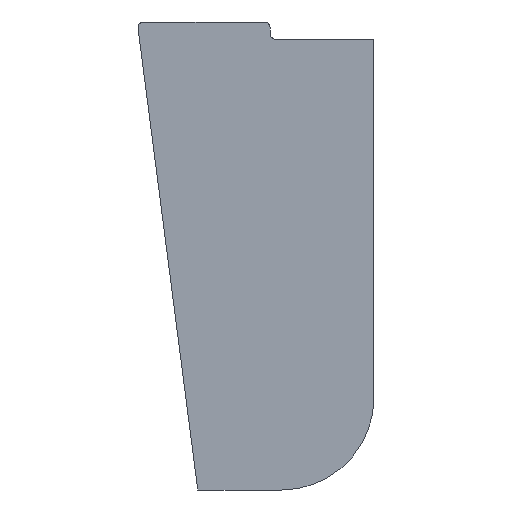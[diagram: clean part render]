
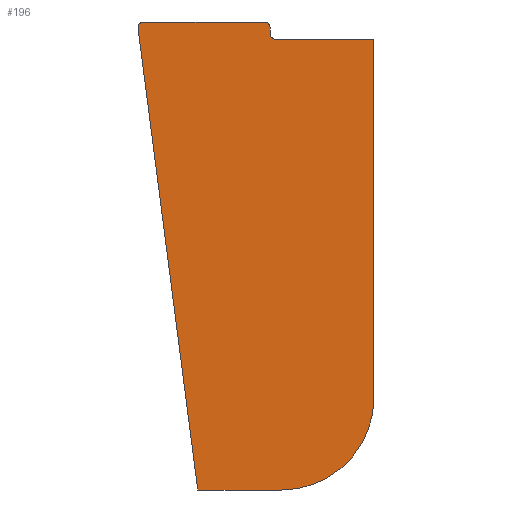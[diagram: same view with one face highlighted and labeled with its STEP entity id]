
A CAD part, left-side view. The second image highlights one B-rep face of the part: STEP entity #196.
In plain terms, the highlighted planar face has unit normal (-1, 0, 0).
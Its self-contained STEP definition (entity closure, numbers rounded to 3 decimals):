
#1=CARTESIAN_POINT('',(0.,206.929,629.699));
#2=DIRECTION('',(-1.,0.,0.));
#3=DIRECTION('',(0.,0.,-1.));
#4=AXIS2_PLACEMENT_3D('',#1,#2,#3);
#6=DIRECTION('',(0.,1.,0.));
#7=VECTOR('',#6,72.675);
#8=CARTESIAN_POINT('',(0.,206.929,549.699));
#9=LINE('',#8,#7);
#10=DIRECTION('',(0.,0.128,0.992));
#11=VECTOR('',#10,402.986);
#12=CARTESIAN_POINT('',(0.,279.604,549.699));
#13=LINE('',#12,#11);
#14=CARTESIAN_POINT('',(0.,326.312,950.));
#15=DIRECTION('',(-1.,0.,0.));
#16=DIRECTION('',(0.,0.,1.));
#17=AXIS2_PLACEMENT_3D('',#14,#15,#16);
#19=DIRECTION('',(0.,-1.,0.));
#20=VECTOR('',#19,104.383);
#21=CARTESIAN_POINT('',(0.,326.312,955.));
#22=LINE('',#21,#20);
#23=CARTESIAN_POINT('',(0.,221.929,950.));
#24=DIRECTION('',(1.,0.,0.));
#25=DIRECTION('',(0.,0.,1.));
#26=AXIS2_PLACEMENT_3D('',#23,#24,#25);
#28=DIRECTION('',(0.,0.,-1.));
#29=VECTOR('',#28,5.);
#30=CARTESIAN_POINT('',(0.,216.929,950.));
#31=LINE('',#30,#29);
#32=CARTESIAN_POINT('',(0.,211.929,945.));
#33=DIRECTION('',(-1.,0.,0.));
#34=DIRECTION('',(0.,1.,0.));
#35=AXIS2_PLACEMENT_3D('',#32,#33,#34);
#37=DIRECTION('',(0.,-1.,0.));
#38=VECTOR('',#37,85.);
#39=CARTESIAN_POINT('',(0.,211.929,940.));
#40=LINE('',#39,#38);
#41=DIRECTION('',(0.,0.,-1.));
#42=VECTOR('',#41,310.301);
#43=CARTESIAN_POINT('',(0.,126.929,940.));
#44=LINE('',#43,#42);
#129=CARTESIAN_POINT('',(0.,221.929,955.));
#130=CARTESIAN_POINT('',(0.,216.929,950.));
#131=VERTEX_POINT('',#129);
#132=VERTEX_POINT('',#130);
#133=CARTESIAN_POINT('',(0.,216.929,945.));
#134=VERTEX_POINT('',#133);
#135=CARTESIAN_POINT('',(0.,211.929,940.));
#136=CARTESIAN_POINT('',(0.,126.929,940.));
#137=VERTEX_POINT('',#135);
#138=VERTEX_POINT('',#136);
#149=CARTESIAN_POINT('',(0.,326.312,955.));
#150=CARTESIAN_POINT('',(0.,331.271,949.359));
#151=VERTEX_POINT('',#149);
#152=VERTEX_POINT('',#150);
#157=CARTESIAN_POINT('',(0.,279.604,549.699));
#159=VERTEX_POINT('',#157);
#165=CARTESIAN_POINT('',(0.,206.929,549.699));
#166=VERTEX_POINT('',#165);
#167=CARTESIAN_POINT('',(0.,126.929,629.699));
#168=VERTEX_POINT('',#167);
#169=CARTESIAN_POINT('',(0.,0.,0.));
#170=DIRECTION('',(1.,0.,0.));
#171=DIRECTION('',(0.,0.,-1.));
#172=AXIS2_PLACEMENT_3D('',#169,#170,#171);
#173=PLANE('',#172);
#175=ORIENTED_EDGE('',*,*,#174,.F.);
#177=ORIENTED_EDGE('',*,*,#176,.T.);
#179=ORIENTED_EDGE('',*,*,#178,.T.);
#181=ORIENTED_EDGE('',*,*,#180,.F.);
#183=ORIENTED_EDGE('',*,*,#182,.T.);
#185=ORIENTED_EDGE('',*,*,#184,.T.);
#187=ORIENTED_EDGE('',*,*,#186,.T.);
#189=ORIENTED_EDGE('',*,*,#188,.T.);
#191=ORIENTED_EDGE('',*,*,#190,.T.);
#193=ORIENTED_EDGE('',*,*,#192,.T.);
#194=EDGE_LOOP('',(#175,#177,#179,#181,#183,#185,#187,#189,#191,#193));
#195=FACE_OUTER_BOUND('',#194,.F.);
#196=ADVANCED_FACE('',(#195),#173,.F.);
#5=CIRCLE('',#4,80.);
#18=CIRCLE('',#17,5.);
#27=CIRCLE('',#26,5.);
#36=CIRCLE('',#35,5.);
#174=EDGE_CURVE('',#166,#168,#5,.T.);
#176=EDGE_CURVE('',#166,#159,#9,.T.);
#178=EDGE_CURVE('',#159,#152,#13,.T.);
#180=EDGE_CURVE('',#151,#152,#18,.T.);
#182=EDGE_CURVE('',#151,#131,#22,.T.);
#184=EDGE_CURVE('',#131,#132,#27,.T.);
#186=EDGE_CURVE('',#132,#134,#31,.T.);
#188=EDGE_CURVE('',#134,#137,#36,.T.);
#190=EDGE_CURVE('',#137,#138,#40,.T.);
#192=EDGE_CURVE('',#138,#168,#44,.T.);
